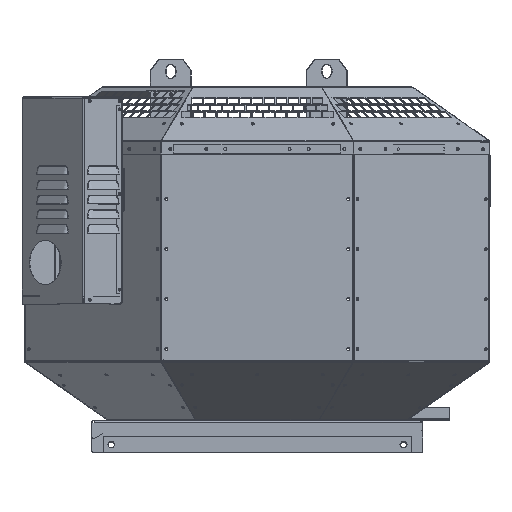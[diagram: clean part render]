
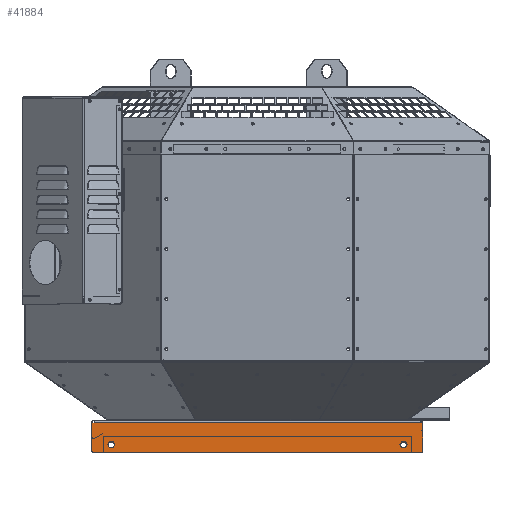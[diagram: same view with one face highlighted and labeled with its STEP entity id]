
A CAD part, top view. The second image highlights one B-rep face of the part: STEP entity #41884.
In plain terms, the highlighted planar face has unit normal (0, 0, 1).
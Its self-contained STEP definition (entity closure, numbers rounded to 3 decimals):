
#615 = LINE ( 'NONE', #60040, #39568 ) ;
#815 = DIRECTION ( 'NONE',  ( 0., 0., 1. ) ) ;
#849 = ORIENTED_EDGE ( 'NONE', *, *, #72475, .F. ) ;
#2010 = VERTEX_POINT ( 'NONE', #55267 ) ;
#3136 = DIRECTION ( 'NONE',  ( 0., 0., 1. ) ) ;
#3196 = CARTESIAN_POINT ( 'NONE',  ( -204.5, -8.7, 220.3 ) ) ;
#3384 = EDGE_LOOP ( 'NONE', ( #74032, #25240, #90852, #52461, #50773, #83506, #72040, #10299 ) ) ;
#5553 = VECTOR ( 'NONE', #33782, 1000. ) ;
#6777 = DIRECTION ( 'NONE',  ( 0., 0., 1. ) ) ;
#10299 = ORIENTED_EDGE ( 'NONE', *, *, #48538, .T. ) ;
#13828 = EDGE_CURVE ( 'NONE', #16183, #96751, #48173, .T. ) ;
#15225 = ORIENTED_EDGE ( 'NONE', *, *, #21493, .F. ) ;
#15280 = VERTEX_POINT ( 'NONE', #96418 ) ;
#16183 = VERTEX_POINT ( 'NONE', #28036 ) ;
#16429 = EDGE_CURVE ( 'NONE', #41567, #93579, #102284, .T. ) ;
#16779 = LINE ( 'NONE', #24987, #105031 ) ;
#20106 = CARTESIAN_POINT ( 'NONE',  ( -231.75, 17.6, 220.3 ) ) ;
#21135 = CARTESIAN_POINT ( 'NONE',  ( 204.5, -13.2, 220.3 ) ) ;
#21493 = EDGE_CURVE ( 'NONE', #53941, #97859, #98561, .T. ) ;
#22423 = CIRCLE ( 'NONE', #68310, 4.5 ) ;
#22448 = LINE ( 'NONE', #75150, #5553 ) ;
#24987 = CARTESIAN_POINT ( 'NONE',  ( 215.75, 17.6, 220.3 ) ) ;
#25240 = ORIENTED_EDGE ( 'NONE', *, *, #29125, .T. ) ;
#25283 = ORIENTED_EDGE ( 'NONE', *, *, #64529, .F. ) ;
#27991 = EDGE_CURVE ( 'NONE', #40469, #92207, #22448, .T. ) ;
#28036 = CARTESIAN_POINT ( 'NONE',  ( 204.5, -8.7, 220.3 ) ) ;
#28059 = DIRECTION ( 'NONE',  ( 0., -1., 0. ) ) ;
#28718 = CIRCLE ( 'NONE', #38187, 3. ) ;
#29125 = EDGE_CURVE ( 'NONE', #40469, #15280, #28718, .T. ) ;
#29477 = DIRECTION ( 'NONE',  ( 0., -1., 0. ) ) ;
#30205 = CARTESIAN_POINT ( 'NONE',  ( 204.5, -13.2, 220.3 ) ) ;
#33321 = DIRECTION ( 'NONE',  ( 1., 0., 0. ) ) ;
#33558 = DIRECTION ( 'NONE',  ( 0., 0., 1. ) ) ;
#33782 = DIRECTION ( 'NONE',  ( -1., 0., 0. ) ) ;
#34422 = AXIS2_PLACEMENT_3D ( 'NONE', #96156, #46438, #104504 ) ;
#34766 = CARTESIAN_POINT ( 'NONE',  ( 231.75, 17.6, 220.3 ) ) ;
#38187 = AXIS2_PLACEMENT_3D ( 'NONE', #83293, #33558, #91613 ) ;
#38522 = DIRECTION ( 'NONE',  ( 0., -1., 0. ) ) ;
#38550 = FACE_BOUND ( 'NONE', #89417, .T. ) ;
#38702 = CARTESIAN_POINT ( 'NONE',  ( -231.75, 17.6, 220.3 ) ) ;
#39568 = VECTOR ( 'NONE', #101420, 1000. ) ;
#40469 = VERTEX_POINT ( 'NONE', #44654 ) ;
#41567 = VERTEX_POINT ( 'NONE', #105833 ) ;
#41884 = ADVANCED_FACE ( 'NONE', ( #82746, #38550, #43801 ), #52897, .T. ) ;
#43801 = FACE_OUTER_BOUND ( 'NONE', #3384, .T. ) ;
#44654 = CARTESIAN_POINT ( 'NONE',  ( 228.75, -24., 220.3 ) ) ;
#45472 = CIRCLE ( 'NONE', #85991, 4.5 ) ;
#46438 = DIRECTION ( 'NONE',  ( 0., 0., 1. ) ) ;
#48173 = CIRCLE ( 'NONE', #97127, 4.5 ) ;
#48261 = LINE ( 'NONE', #20106, #70330 ) ;
#48538 = EDGE_CURVE ( 'NONE', #87014, #92207, #59355, .T. ) ;
#50588 = CARTESIAN_POINT ( 'NONE',  ( -228.75, -21., 220.3 ) ) ;
#50773 = ORIENTED_EDGE ( 'NONE', *, *, #52344, .T. ) ;
#52344 = EDGE_CURVE ( 'NONE', #2010, #41567, #54083, .T. ) ;
#52461 = ORIENTED_EDGE ( 'NONE', *, *, #73275, .F. ) ;
#52897 = PLANE ( 'NONE',  #93726 ) ;
#53941 = VERTEX_POINT ( 'NONE', #3196 ) ;
#54083 = LINE ( 'NONE', #86492, #95640 ) ;
#55267 = CARTESIAN_POINT ( 'NONE',  ( 228.35, 17.6, 220.3 ) ) ;
#56289 = DIRECTION ( 'NONE',  ( -1., 0., 0. ) ) ;
#56553 = CARTESIAN_POINT ( 'NONE',  ( -204.5, -13.2, 220.3 ) ) ;
#58906 = DIRECTION ( 'NONE',  ( 0., -1., 0. ) ) ;
#59355 = CIRCLE ( 'NONE', #70318, 3. ) ;
#60040 = CARTESIAN_POINT ( 'NONE',  ( 231.75, 17.6, 220.3 ) ) ;
#61234 = DIRECTION ( 'NONE',  ( 0., -1., 0. ) ) ;
#64529 = EDGE_CURVE ( 'NONE', #97859, #53941, #22423, .T. ) ;
#64862 = DIRECTION ( 'NONE',  ( 0., -1., 0. ) ) ;
#65196 = EDGE_CURVE ( 'NONE', #93579, #87014, #48261, .T. ) ;
#68310 = AXIS2_PLACEMENT_3D ( 'NONE', #56553, #6777, #64862 ) ;
#69531 = EDGE_LOOP ( 'NONE', ( #849, #78176 ) ) ;
#70318 = AXIS2_PLACEMENT_3D ( 'NONE', #50588, #815, #58906 ) ;
#70330 = VECTOR ( 'NONE', #28059, 1000. ) ;
#72040 = ORIENTED_EDGE ( 'NONE', *, *, #65196, .T. ) ;
#72475 = EDGE_CURVE ( 'NONE', #96751, #16183, #45472, .T. ) ;
#73275 = EDGE_CURVE ( 'NONE', #2010, #88348, #16779, .T. ) ;
#74032 = ORIENTED_EDGE ( 'NONE', *, *, #27991, .F. ) ;
#75150 = CARTESIAN_POINT ( 'NONE',  ( -215.75, -24., 220.3 ) ) ;
#78176 = ORIENTED_EDGE ( 'NONE', *, *, #13828, .F. ) ;
#78746 = CARTESIAN_POINT ( 'NONE',  ( -228.75, -24., 220.3 ) ) ;
#79189 = DIRECTION ( 'NONE',  ( 0., 0., 1. ) ) ;
#80183 = VECTOR ( 'NONE', #56289, 1000. ) ;
#82072 = EDGE_CURVE ( 'NONE', #88348, #15280, #615, .T. ) ;
#82746 = FACE_BOUND ( 'NONE', #69531, .T. ) ;
#83293 = CARTESIAN_POINT ( 'NONE',  ( 228.75, -21., 220.3 ) ) ;
#83506 = ORIENTED_EDGE ( 'NONE', *, *, #16429, .T. ) ;
#85112 = CARTESIAN_POINT ( 'NONE',  ( -231.75, -21., 220.3 ) ) ;
#85991 = AXIS2_PLACEMENT_3D ( 'NONE', #21135, #79189, #29477 ) ;
#86492 = CARTESIAN_POINT ( 'NONE',  ( -215.75, 17.6, 220.3 ) ) ;
#87014 = VERTEX_POINT ( 'NONE', #85112 ) ;
#88262 = DIRECTION ( 'NONE',  ( 0., 0., 1. ) ) ;
#88348 = VERTEX_POINT ( 'NONE', #34766 ) ;
#89320 = CARTESIAN_POINT ( 'NONE',  ( -215.75, 17.6, 220.3 ) ) ;
#89417 = EDGE_LOOP ( 'NONE', ( #25283, #15225 ) ) ;
#90852 = ORIENTED_EDGE ( 'NONE', *, *, #82072, .F. ) ;
#91613 = DIRECTION ( 'NONE',  ( 0., -1., 0. ) ) ;
#92207 = VERTEX_POINT ( 'NONE', #78746 ) ;
#93544 = CARTESIAN_POINT ( 'NONE',  ( -215.75, 19.5, 220.3 ) ) ;
#93579 = VERTEX_POINT ( 'NONE', #38702 ) ;
#93726 = AXIS2_PLACEMENT_3D ( 'NONE', #93544, #3136, #61234 ) ;
#94844 = DIRECTION ( 'NONE',  ( -1., 0., 0. ) ) ;
#95640 = VECTOR ( 'NONE', #94844, 1000. ) ;
#96156 = CARTESIAN_POINT ( 'NONE',  ( -204.5, -13.2, 220.3 ) ) ;
#96418 = CARTESIAN_POINT ( 'NONE',  ( 231.75, -21., 220.3 ) ) ;
#96751 = VERTEX_POINT ( 'NONE', #106090 ) ;
#97127 = AXIS2_PLACEMENT_3D ( 'NONE', #30205, #88262, #38522 ) ;
#97859 = VERTEX_POINT ( 'NONE', #106179 ) ;
#98561 = CIRCLE ( 'NONE', #34422, 4.5 ) ;
#101420 = DIRECTION ( 'NONE',  ( 0., -1., 0. ) ) ;
#102284 = LINE ( 'NONE', #89320, #80183 ) ;
#104504 = DIRECTION ( 'NONE',  ( 0., -1., 0. ) ) ;
#105031 = VECTOR ( 'NONE', #33321, 1000. ) ;
#105833 = CARTESIAN_POINT ( 'NONE',  ( -228.35, 17.6, 220.3 ) ) ;
#106090 = CARTESIAN_POINT ( 'NONE',  ( 204.5, -17.7, 220.3 ) ) ;
#106179 = CARTESIAN_POINT ( 'NONE',  ( -204.5, -17.7, 220.3 ) ) ;
